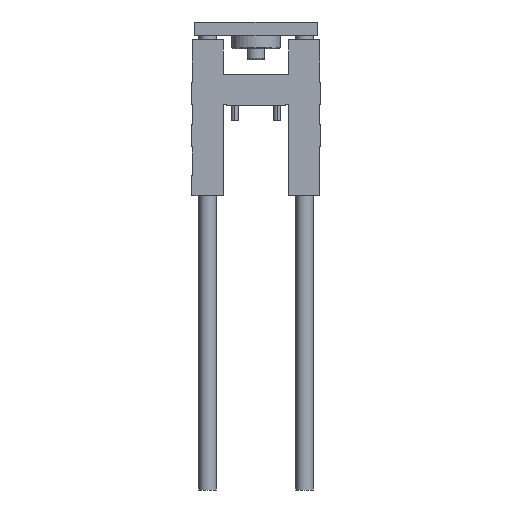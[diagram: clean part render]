
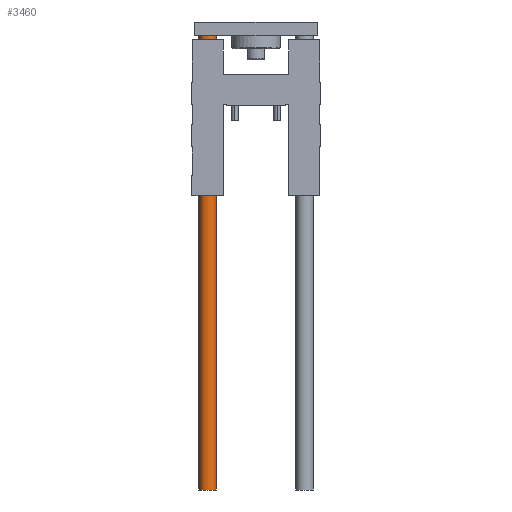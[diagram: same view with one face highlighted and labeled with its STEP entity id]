
A CAD part, front view. The second image highlights one B-rep face of the part: STEP entity #3460.
In plain terms, the highlighted cylindrical face has radius 8 mm (diameter 16 mm), a partial arc.
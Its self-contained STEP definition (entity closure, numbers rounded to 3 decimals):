
#205 = DIRECTION ( 'NONE',  ( 1., 0., 0. ) ) ;
#206 = EDGE_CURVE ( 'NONE', #4607, #5641, #4431, .T. ) ;
#263 = DIRECTION ( 'NONE',  ( 0., 0., -1. ) ) ;
#438 = DIRECTION ( 'NONE',  ( 0., 0., 1. ) ) ;
#452 = ORIENTED_EDGE ( 'NONE', *, *, #6130, .F. ) ;
#748 = DIRECTION ( 'NONE',  ( 0., 0., -1. ) ) ;
#950 = ORIENTED_EDGE ( 'NONE', *, *, #1106, .F. ) ;
#1094 = CARTESIAN_POINT ( 'NONE',  ( -43.5, 0., -345. ) ) ;
#1106 = EDGE_CURVE ( 'NONE', #5912, #1406, #3869, .T. ) ;
#1160 = EDGE_CURVE ( 'NONE', #5912, #4607, #5190, .T. ) ;
#1406 = VERTEX_POINT ( 'NONE', #7991 ) ;
#1990 = CARTESIAN_POINT ( 'NONE',  ( -43.5, 0., -345. ) ) ;
#2057 = CARTESIAN_POINT ( 'NONE',  ( -43.5, 0., 63. ) ) ;
#2155 = CARTESIAN_POINT ( 'NONE',  ( -51.5, 0., -345. ) ) ;
#2615 = LINE ( 'NONE', #8232, #9807 ) ;
#3449 = DIRECTION ( 'NONE',  ( 1., 0., 0. ) ) ;
#3460 = ADVANCED_FACE ( 'NONE', ( #9770 ), #3550, .T. ) ;
#3550 = CYLINDRICAL_SURFACE ( 'NONE', #7040, 8. ) ;
#3869 = CIRCLE ( 'NONE', #4380, 8. ) ;
#4286 = DIRECTION ( 'NONE',  ( 0., 0., -1. ) ) ;
#4313 = DIRECTION ( 'NONE',  ( 1., 0., 0. ) ) ;
#4380 = AXIS2_PLACEMENT_3D ( 'NONE', #2057, #438, #4313 ) ;
#4431 = CIRCLE ( 'NONE', #9387, 8. ) ;
#4607 = VERTEX_POINT ( 'NONE', #7357 ) ;
#5050 = EDGE_LOOP ( 'NONE', ( #950, #8088, #8008, #452 ) ) ;
#5190 = LINE ( 'NONE', #2155, #6530 ) ;
#5641 = VERTEX_POINT ( 'NONE', #9427 ) ;
#5912 = VERTEX_POINT ( 'NONE', #9206 ) ;
#6130 = EDGE_CURVE ( 'NONE', #1406, #5641, #2615, .T. ) ;
#6530 = VECTOR ( 'NONE', #748, 1000. ) ;
#6575 = DIRECTION ( 'NONE',  ( 0., 0., 1. ) ) ;
#7040 = AXIS2_PLACEMENT_3D ( 'NONE', #1094, #4286, #205 ) ;
#7357 = CARTESIAN_POINT ( 'NONE',  ( -51.5, 0., -345. ) ) ;
#7991 = CARTESIAN_POINT ( 'NONE',  ( -35.5, 0., 63. ) ) ;
#8008 = ORIENTED_EDGE ( 'NONE', *, *, #206, .T. ) ;
#8088 = ORIENTED_EDGE ( 'NONE', *, *, #1160, .T. ) ;
#8232 = CARTESIAN_POINT ( 'NONE',  ( -35.5, 0., -345. ) ) ;
#9206 = CARTESIAN_POINT ( 'NONE',  ( -51.5, 0., 63. ) ) ;
#9387 = AXIS2_PLACEMENT_3D ( 'NONE', #1990, #6575, #3449 ) ;
#9427 = CARTESIAN_POINT ( 'NONE',  ( -35.5, 0., -345. ) ) ;
#9770 = FACE_OUTER_BOUND ( 'NONE', #5050, .T. ) ;
#9807 = VECTOR ( 'NONE', #263, 1000. ) ;
